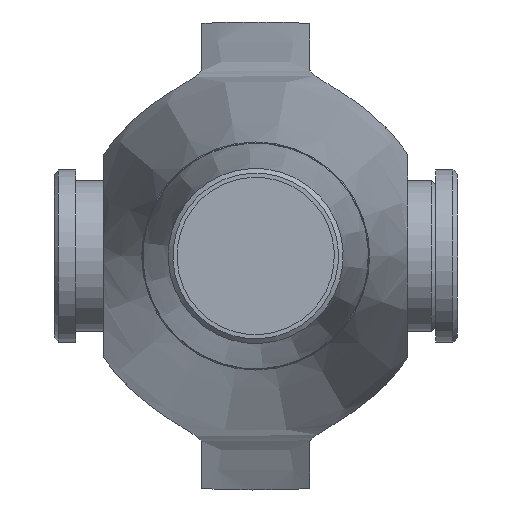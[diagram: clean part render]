
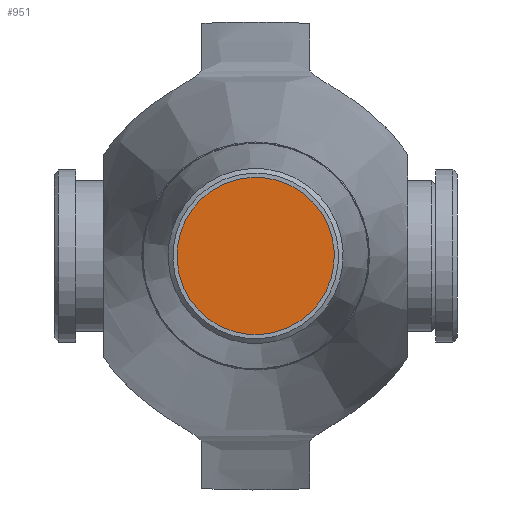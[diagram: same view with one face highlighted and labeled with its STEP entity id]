
A CAD part, left-side view. The second image highlights one B-rep face of the part: STEP entity #951.
In plain terms, the highlighted planar face has unit normal (-1, 0, 0).
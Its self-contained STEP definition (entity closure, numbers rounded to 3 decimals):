
#70=PLANE('',#1043);
#100=FACE_OUTER_BOUND('',#158,.T.);
#158=EDGE_LOOP('',(#627,#628));
#313=CIRCLE('',#1041,36.5);
#314=CIRCLE('',#1042,36.5);
#381=VERTEX_POINT('',#1474);
#382=VERTEX_POINT('',#1476);
#479=EDGE_CURVE('',#382,#381,#313,.T.);
#480=EDGE_CURVE('',#381,#382,#314,.T.);
#627=ORIENTED_EDGE('',*,*,#479,.T.);
#628=ORIENTED_EDGE('',*,*,#480,.T.);
#951=ADVANCED_FACE('',(#100),#70,.T.);
#1041=AXIS2_PLACEMENT_3D('',#1477,#1186,#1187);
#1042=AXIS2_PLACEMENT_3D('',#1478,#1188,#1189);
#1043=AXIS2_PLACEMENT_3D('',#1479,#1190,#1191);
#1186=DIRECTION('center_axis',(-1.,0.,0.));
#1187=DIRECTION('ref_axis',(0.,0.958,0.286));
#1188=DIRECTION('center_axis',(-1.,0.,0.));
#1189=DIRECTION('ref_axis',(0.,0.958,0.286));
#1190=DIRECTION('center_axis',(-1.,0.,0.));
#1191=DIRECTION('ref_axis',(0.,0.958,0.286));
#1474=CARTESIAN_POINT('',(-734.,10.441,-34.975));
#1476=CARTESIAN_POINT('',(-734.,-10.441,34.975));
#1477=CARTESIAN_POINT('Origin',(-734.,0.,0.));
#1478=CARTESIAN_POINT('Origin',(-734.,0.,0.));
#1479=CARTESIAN_POINT('Origin',(-734.,0.,0.));
